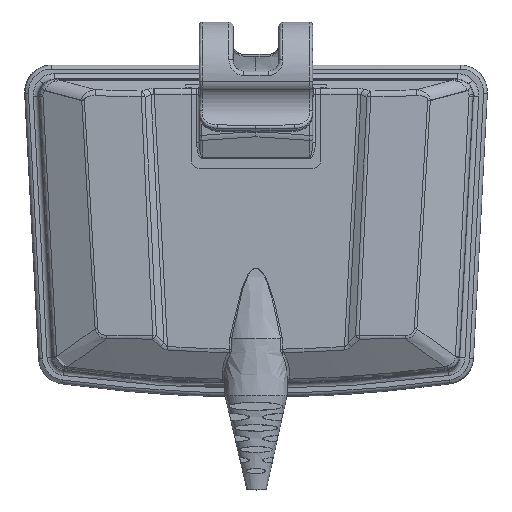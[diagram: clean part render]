
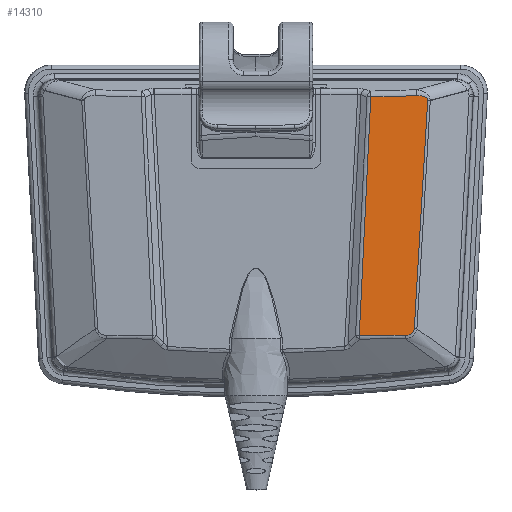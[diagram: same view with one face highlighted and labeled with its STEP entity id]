
A CAD part, top view. The second image highlights one B-rep face of the part: STEP entity #14310.
In plain terms, the highlighted planar face has unit normal (0.052, 0, 0.999).
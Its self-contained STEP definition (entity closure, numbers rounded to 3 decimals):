
#64 = CARTESIAN_POINT ( 'NONE',  ( 42.529, 28.153, 20.543 ) ) ;
#155 = CARTESIAN_POINT ( 'NONE',  ( 56.095, -60.143, 19.832 ) ) ;
#350 = CARTESIAN_POINT ( 'NONE',  ( 57.732, -59.523, 19.746 ) ) ;
#593 = CARTESIAN_POINT ( 'NONE',  ( 59.556, 28.647, 19.65 ) ) ;
#730 = VERTEX_POINT ( 'NONE', #9442 ) ;
#744 = ORIENTED_EDGE ( 'NONE', *, *, #1035, .F. ) ;
#857 = CARTESIAN_POINT ( 'NONE',  ( 61.778, 28.496, 19.534 ) ) ;
#1021 = CARTESIAN_POINT ( 'NONE',  ( 63.216, 27.879, 19.458 ) ) ;
#1035 = EDGE_CURVE ( 'NONE', #2454, #2226, #13329, .T. ) ;
#1043 = VERTEX_POINT ( 'NONE', #4004 ) ;
#1731 = CARTESIAN_POINT ( 'NONE',  ( 56.432, -95.858, 19.814 ) ) ;
#1935 = CARTESIAN_POINT ( 'NONE',  ( 38.28, -60.28, 20.765 ) ) ;
#2076 = EDGE_CURVE ( 'NONE', #2226, #730, #10355, .T. ) ;
#2128 = CARTESIAN_POINT ( 'NONE',  ( 59.556, 28.647, 19.65 ) ) ;
#2226 = VERTEX_POINT ( 'NONE', #593 ) ;
#2454 = VERTEX_POINT ( 'NONE', #64 ) ;
#2691 = VERTEX_POINT ( 'NONE', #14903 ) ;
#2798 = CARTESIAN_POINT ( 'NONE',  ( 58.664, -57.859, 19.697 ) ) ;
#3032 = LINE ( 'NONE', #1935, #15964 ) ;
#3880 = PLANE ( 'NONE',  #12136 ) ;
#4004 = CARTESIAN_POINT ( 'NONE',  ( 38.28, -60.28, 20.765 ) ) ;
#4126 = CARTESIAN_POINT ( 'NONE',  ( 56.67, -60.014, 19.801 ) ) ;
#4211 = FACE_OUTER_BOUND ( 'NONE', #9046, .T. ) ;
#4827 = CARTESIAN_POINT ( 'NONE',  ( 60.755, 28.638, 19.587 ) ) ;
#4908 = CARTESIAN_POINT ( 'NONE',  ( 63.657, 27.173, 19.435 ) ) ;
#4947 = ORIENTED_EDGE ( 'NONE', *, *, #2076, .F. ) ;
#5137 = B_SPLINE_CURVE_WITH_KNOTS ( 'NONE', 3,
 ( #6865, #2798, #15784, #10604, #9314, #14506, #8049, #13222, #11958, #12040, #350, #10685, #10774, #9063, #4126, #155, #7698, #5225 ),
 .UNSPECIFIED., .F., .F.,
 ( 4, 2, 2, 2, 2, 2, 2, 2, 4 ),
 ( 0., 0.125, 0.25, 0.313, 0.375, 0.5, 0.625, 0.75, 1. ),
 .UNSPECIFIED. ) ;
#5225 = CARTESIAN_POINT ( 'NONE',  ( 55.312, -60.19, 19.873 ) ) ;
#5369 = CARTESIAN_POINT ( 'NONE',  ( 58.675, -57.661, 19.696 ) ) ;
#5995 = CARTESIAN_POINT ( 'NONE',  ( 55.312, -60.19, 19.873 ) ) ;
#6078 = CARTESIAN_POINT ( 'NONE',  ( 38.28, -60.28, 20.765 ) ) ;
#6524 = CARTESIAN_POINT ( 'NONE',  ( 63.641, 26.895, 19.436 ) ) ;
#6865 = CARTESIAN_POINT ( 'NONE',  ( 58.675, -57.661, 19.696 ) ) ;
#6886 = CARTESIAN_POINT ( 'NONE',  ( 38.294, 28.03, 20.765 ) ) ;
#7026 = VECTOR ( 'NONE', #12059, 1000. ) ;
#7190 = CARTESIAN_POINT ( 'NONE',  ( 43.958, -60.346, 20.468 ) ) ;
#7535 = EDGE_CURVE ( 'NONE', #2691, #1043, #10256, .T. ) ;
#7698 = CARTESIAN_POINT ( 'NONE',  ( 55.704, -60.181, 19.852 ) ) ;
#7935 = ORIENTED_EDGE ( 'NONE', *, *, #14178, .F. ) ;
#8049 = CARTESIAN_POINT ( 'NONE',  ( 58.27, -58.956, 19.718 ) ) ;
#8200 = DIRECTION ( 'NONE',  ( 0.048, 0.999, -0.003 ) ) ;
#8666 = VERTEX_POINT ( 'NONE', #5369 ) ;
#9043 = DIRECTION ( 'NONE',  ( -0.052, 0., -0.999 ) ) ;
#9046 = EDGE_LOOP ( 'NONE', ( #9549, #12705, #10105, #7935, #4947, #744 ) ) ;
#9063 = CARTESIAN_POINT ( 'NONE',  ( 56.858, -59.959, 19.792 ) ) ;
#9212 = CARTESIAN_POINT ( 'NONE',  ( 41.858, -95., 20.578 ) ) ;
#9314 = CARTESIAN_POINT ( 'NONE',  ( 58.463, -58.618, 19.708 ) ) ;
#9442 = CARTESIAN_POINT ( 'NONE',  ( 63.641, 26.895, 19.436 ) ) ;
#9549 = ORIENTED_EDGE ( 'NONE', *, *, #15200, .F. ) ;
#9596 = LINE ( 'NONE', #1731, #11600 ) ;
#10105 = ORIENTED_EDGE ( 'NONE', *, *, #14236, .F. ) ;
#10256 = B_SPLINE_CURVE_WITH_KNOTS ( 'NONE', 3,
 ( #5995, #12619, #7190, #6078 ),
 .UNSPECIFIED., .F., .F.,
 ( 4, 4 ),
 ( 0., 1. ),
 .UNSPECIFIED. ) ;
#10355 = B_SPLINE_CURVE_WITH_KNOTS ( 'NONE', 3,
 ( #2128, #12471, #4827, #857, #11202, #12639, #1021, #11372, #4908, #6524 ),
 .UNSPECIFIED., .F., .F.,
 ( 4, 2, 2, 2, 4 ),
 ( 0., 0.25, 0.5, 0.75, 1. ),
 .UNSPECIFIED. ) ;
#10604 = CARTESIAN_POINT ( 'NONE',  ( 58.536, -58.432, 19.704 ) ) ;
#10685 = CARTESIAN_POINT ( 'NONE',  ( 57.399, -59.733, 19.763 ) ) ;
#10774 = CARTESIAN_POINT ( 'NONE',  ( 57.221, -59.819, 19.773 ) ) ;
#11202 = CARTESIAN_POINT ( 'NONE',  ( 62.222, 28.381, 19.511 ) ) ;
#11372 = CARTESIAN_POINT ( 'NONE',  ( 63.574, 27.429, 19.44 ) ) ;
#11600 = VECTOR ( 'NONE', #15985, 1000. ) ;
#11958 = CARTESIAN_POINT ( 'NONE',  ( 58.09, -59.189, 19.727 ) ) ;
#12040 = CARTESIAN_POINT ( 'NONE',  ( 57.885, -59.402, 19.738 ) ) ;
#12059 = DIRECTION ( 'NONE',  ( 0.998, 0.029, -0.052 ) ) ;
#12136 = AXIS2_PLACEMENT_3D ( 'NONE', #9212, #9043, #12954 ) ;
#12471 = CARTESIAN_POINT ( 'NONE',  ( 60.177, 28.665, 19.618 ) ) ;
#12619 = CARTESIAN_POINT ( 'NONE',  ( 49.636, -60.315, 20.17 ) ) ;
#12639 = CARTESIAN_POINT ( 'NONE',  ( 62.942, 28.073, 19.473 ) ) ;
#12705 = ORIENTED_EDGE ( 'NONE', *, *, #7535, .F. ) ;
#12954 = DIRECTION ( 'NONE',  ( -0.999, 0., 0.052 ) ) ;
#13222 = CARTESIAN_POINT ( 'NONE',  ( 58.154, -59.113, 19.724 ) ) ;
#13329 = LINE ( 'NONE', #6886, #7026 ) ;
#14178 = EDGE_CURVE ( 'NONE', #730, #8666, #9596, .T. ) ;
#14236 = EDGE_CURVE ( 'NONE', #8666, #2691, #5137, .T. ) ;
#14310 = ADVANCED_FACE ( 'NONE', ( #4211 ), #3880, .F. ) ;
#14506 = CARTESIAN_POINT ( 'NONE',  ( 58.323, -58.874, 19.715 ) ) ;
#14903 = CARTESIAN_POINT ( 'NONE',  ( 55.312, -60.19, 19.873 ) ) ;
#15200 = EDGE_CURVE ( 'NONE', #1043, #2454, #3032, .T. ) ;
#15784 = CARTESIAN_POINT ( 'NONE',  ( 58.635, -58.052, 19.699 ) ) ;
#15964 = VECTOR ( 'NONE', #8200, 1000. ) ;
#15985 = DIRECTION ( 'NONE',  ( -0.059, -0.998, 0.003 ) ) ;
